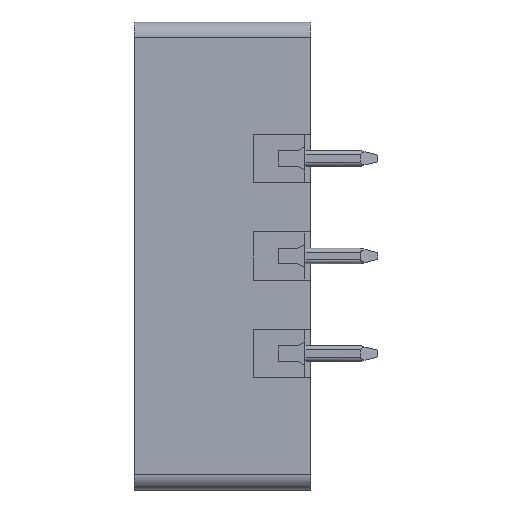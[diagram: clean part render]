
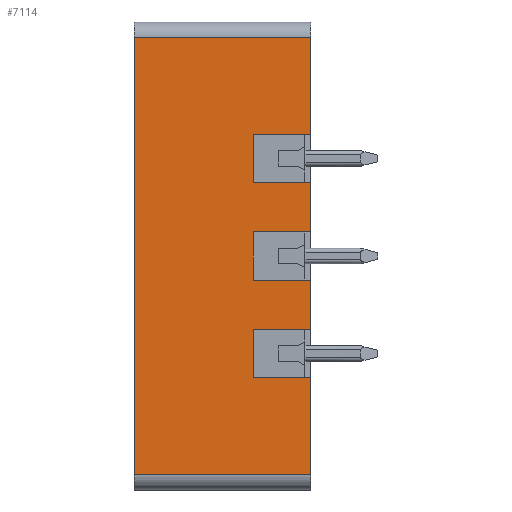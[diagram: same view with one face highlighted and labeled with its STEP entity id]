
A CAD part, left-side view. The second image highlights one B-rep face of the part: STEP entity #7114.
In plain terms, the highlighted planar face has unit normal (-1, 0, 0).
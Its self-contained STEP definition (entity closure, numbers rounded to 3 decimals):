
#122=DIRECTION('',(0.,0.,-1.));
#123=VECTOR('',#122,22.76);
#124=CARTESIAN_POINT('',(0.073,12.7,-1.173));
#125=LINE('',#124,#123);
#387=DIRECTION('',(0.,0.,-1.));
#388=VECTOR('',#387,2.5);
#389=CARTESIAN_POINT('',(0.073,6.5,-16.383));
#390=LINE('',#389,#388);
#391=DIRECTION('',(0.,-1.,0.));
#392=VECTOR('',#391,3.);
#393=CARTESIAN_POINT('',(0.073,6.5,-18.883));
#394=LINE('',#393,#392);
#395=DIRECTION('',(0.,0.,-1.));
#396=VECTOR('',#395,5.05);
#397=CARTESIAN_POINT('',(0.073,3.5,-18.883));
#398=LINE('',#397,#396);
#399=DIRECTION('',(0.,0.,-1.));
#400=VECTOR('',#399,5.05);
#401=CARTESIAN_POINT('',(0.073,3.5,-1.173));
#402=LINE('',#401,#400);
#403=DIRECTION('',(0.,0.,-1.));
#404=VECTOR('',#403,2.5);
#405=CARTESIAN_POINT('',(0.073,6.5,-6.223));
#406=LINE('',#405,#404);
#407=DIRECTION('',(0.,-1.,0.));
#408=VECTOR('',#407,3.);
#409=CARTESIAN_POINT('',(0.073,6.5,-8.723));
#410=LINE('',#409,#408);
#411=DIRECTION('',(0.,0.,-1.));
#412=VECTOR('',#411,2.5);
#413=CARTESIAN_POINT('',(0.073,6.5,-11.303));
#414=LINE('',#413,#412);
#415=DIRECTION('',(0.,-1.,0.));
#416=VECTOR('',#415,3.);
#417=CARTESIAN_POINT('',(0.073,6.5,-13.803));
#418=LINE('',#417,#416);
#450=DIRECTION('',(0.,0.,1.));
#451=VECTOR('',#450,2.58);
#452=CARTESIAN_POINT('',(0.073,3.5,-16.383));
#453=LINE('',#452,#451);
#462=DIRECTION('',(0.,0.,1.));
#463=VECTOR('',#462,2.58);
#464=CARTESIAN_POINT('',(0.073,3.5,-11.303));
#465=LINE('',#464,#463);
#631=DIRECTION('',(0.,-1.,0.));
#632=VECTOR('',#631,9.2);
#633=CARTESIAN_POINT('',(0.073,12.7,-23.933));
#634=LINE('',#633,#632);
#697=DIRECTION('',(0.,1.,0.));
#698=VECTOR('',#697,9.2);
#699=CARTESIAN_POINT('',(0.073,3.5,-1.173));
#700=LINE('',#699,#698);
#951=DIRECTION('',(0.,-1.,0.));
#952=VECTOR('',#951,3.);
#953=CARTESIAN_POINT('',(0.073,6.5,-16.383));
#954=LINE('',#953,#952);
#1051=DIRECTION('',(0.,-1.,0.));
#1052=VECTOR('',#1051,3.);
#1053=CARTESIAN_POINT('',(0.073,6.5,-6.223));
#1054=LINE('',#1053,#1052);
#1175=DIRECTION('',(0.,-1.,0.));
#1176=VECTOR('',#1175,3.);
#1177=CARTESIAN_POINT('',(0.073,6.5,-11.303));
#1178=LINE('',#1177,#1176);
#5637=CARTESIAN_POINT('',(0.073,3.5,-23.933));
#5638=VERTEX_POINT('',#5637);
#5639=CARTESIAN_POINT('',(0.073,3.5,-18.883));
#5640=VERTEX_POINT('',#5639);
#5645=CARTESIAN_POINT('',(0.073,3.5,-16.383));
#5646=VERTEX_POINT('',#5645);
#5647=CARTESIAN_POINT('',(0.073,3.5,-13.803));
#5648=VERTEX_POINT('',#5647);
#5653=CARTESIAN_POINT('',(0.073,3.5,-11.303));
#5654=VERTEX_POINT('',#5653);
#5655=CARTESIAN_POINT('',(0.073,3.5,-8.723));
#5656=VERTEX_POINT('',#5655);
#5661=CARTESIAN_POINT('',(0.073,3.5,-6.223));
#5662=VERTEX_POINT('',#5661);
#5663=CARTESIAN_POINT('',(0.073,3.5,-1.173));
#5664=VERTEX_POINT('',#5663);
#5739=CARTESIAN_POINT('',(0.073,12.7,-1.173));
#5740=CARTESIAN_POINT('',(0.073,12.7,-23.933));
#5741=VERTEX_POINT('',#5739);
#5742=VERTEX_POINT('',#5740);
#5863=CARTESIAN_POINT('',(0.073,6.5,-16.383));
#5864=VERTEX_POINT('',#5863);
#5865=CARTESIAN_POINT('',(0.073,6.5,-18.883));
#5866=VERTEX_POINT('',#5865);
#5867=CARTESIAN_POINT('',(0.073,6.5,-6.223));
#5868=VERTEX_POINT('',#5867);
#5869=CARTESIAN_POINT('',(0.073,6.5,-8.723));
#5870=VERTEX_POINT('',#5869);
#5871=CARTESIAN_POINT('',(0.073,6.5,-11.303));
#5872=VERTEX_POINT('',#5871);
#5873=CARTESIAN_POINT('',(0.073,6.5,-13.803));
#5874=VERTEX_POINT('',#5873);
#7076=CARTESIAN_POINT('',(0.073,12.7,-40.493));
#7077=DIRECTION('',(-1.,0.,0.));
#7078=DIRECTION('',(0.,-1.,0.));
#7079=AXIS2_PLACEMENT_3D('',#7076,#7077,#7078);
#7080=PLANE('',#7079);
#7082=ORIENTED_EDGE('',*,*,#7081,.F.);
#7084=ORIENTED_EDGE('',*,*,#7083,.F.);
#7086=ORIENTED_EDGE('',*,*,#7085,.T.);
#7088=ORIENTED_EDGE('',*,*,#7087,.T.);
#7090=ORIENTED_EDGE('',*,*,#7089,.T.);
#7092=ORIENTED_EDGE('',*,*,#7091,.F.);
#7093=ORIENTED_EDGE('',*,*,#6932,.F.);
#7095=ORIENTED_EDGE('',*,*,#7094,.F.);
#7097=ORIENTED_EDGE('',*,*,#7096,.T.);
#7099=ORIENTED_EDGE('',*,*,#7098,.F.);
#7101=ORIENTED_EDGE('',*,*,#7100,.T.);
#7103=ORIENTED_EDGE('',*,*,#7102,.T.);
#7105=ORIENTED_EDGE('',*,*,#7104,.F.);
#7107=ORIENTED_EDGE('',*,*,#7106,.F.);
#7109=ORIENTED_EDGE('',*,*,#7108,.T.);
#7111=ORIENTED_EDGE('',*,*,#7110,.T.);
#7112=EDGE_LOOP('',(#7082,#7084,#7086,#7088,#7090,#7092,#7093,#7095,#7097,#7099,
#7101,#7103,#7105,#7107,#7109,#7111));
#7113=FACE_OUTER_BOUND('',#7112,.F.);
#7114=ADVANCED_FACE('',(#7113),#7080,.T.);
#6932=EDGE_CURVE('',#5741,#5742,#125,.T.);
#7081=EDGE_CURVE('',#5646,#5648,#453,.T.);
#7083=EDGE_CURVE('',#5864,#5646,#954,.T.);
#7085=EDGE_CURVE('',#5864,#5866,#390,.T.);
#7087=EDGE_CURVE('',#5866,#5640,#394,.T.);
#7089=EDGE_CURVE('',#5640,#5638,#398,.T.);
#7091=EDGE_CURVE('',#5742,#5638,#634,.T.);
#7094=EDGE_CURVE('',#5664,#5741,#700,.T.);
#7096=EDGE_CURVE('',#5664,#5662,#402,.T.);
#7098=EDGE_CURVE('',#5868,#5662,#1054,.T.);
#7100=EDGE_CURVE('',#5868,#5870,#406,.T.);
#7102=EDGE_CURVE('',#5870,#5656,#410,.T.);
#7104=EDGE_CURVE('',#5654,#5656,#465,.T.);
#7106=EDGE_CURVE('',#5872,#5654,#1178,.T.);
#7108=EDGE_CURVE('',#5872,#5874,#414,.T.);
#7110=EDGE_CURVE('',#5874,#5648,#418,.T.);
